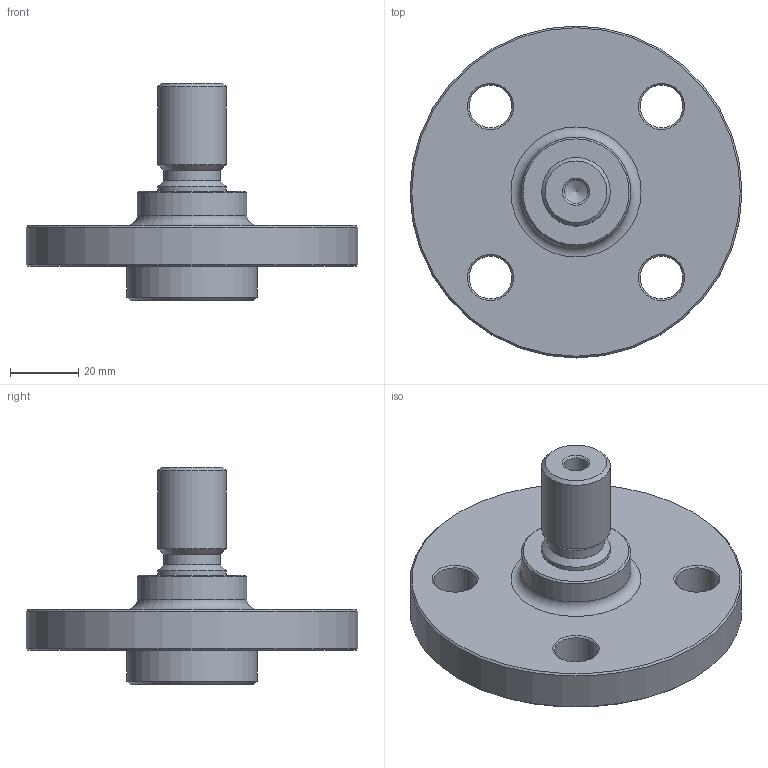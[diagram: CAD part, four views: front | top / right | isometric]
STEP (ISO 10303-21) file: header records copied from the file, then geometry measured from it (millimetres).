
FILE_DESCRIPTION(/* description */ (''),/* implementation_level */ '2;1');
FILE_NAME(/* name */ 'TRAYLOADER.39.1.stp',/* time_stamp */ '2025-05-12T16:00:25+02:00',/* author */ (''),/* organization */ (''),/* preprocessor_version */ 'ST-DEVELOPER v19.4',/* originating_system */ 'SIEMENS PLM Software NX2306.5001',/* authorisation */ '');
FILE_SCHEMA (('AP203_CONFIGURATION_CONTROLLED_3D_DESIGN_OF_MECHANICAL_PARTS_AND_ASSEMBLIES_MIM_LF { 1 0 10303 403 2 1 2}'));
Length unit declared in the file: millimetre
Products named in the file (1): TRAYLOADER.39.1_objects
Bounding box: 97 x 97 x 63.5 mm (x, y, z)
Volume: 110886.8 mm3; surface area: 23399.3 mm2
Topology: 1 solids, 1 shells, 34 faces, 73 edges, 44 vertices
Faces by surface type: cone 17, cylinder 11, plane 5, torus 1
Full cylindrical faces by diameter (mm): 6.8 x1, 12.5 x4, 16.5 x1, 20 x2, 32 x1, 38 x1, 97 x1
Entity records: 820 total; most frequent: DIRECTION 144, CARTESIAN_POINT 110, FACE_BOUND 74, EDGE_LOOP 74, ORIENTED_EDGE 74, AXIS2_PLACEMENT_3D 72, VERTEX_POINT 38, EDGE_CURVE 37
